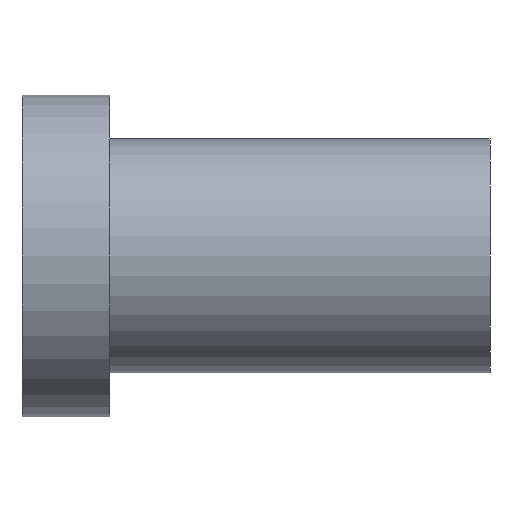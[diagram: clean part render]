
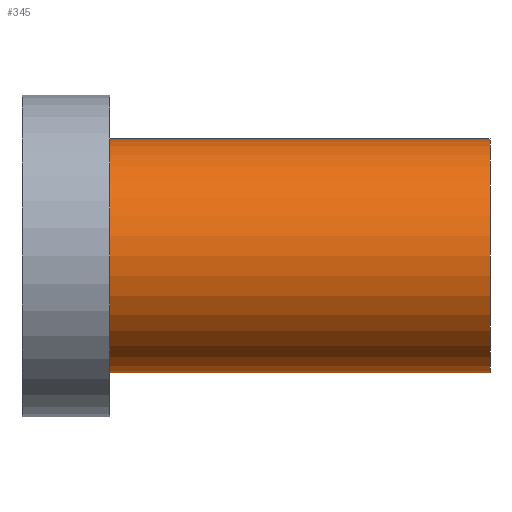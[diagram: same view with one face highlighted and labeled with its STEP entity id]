
A CAD part, left-side view. The second image highlights one B-rep face of the part: STEP entity #345.
In plain terms, the highlighted cylindrical face has radius 4 mm (diameter 8 mm), a partial arc.
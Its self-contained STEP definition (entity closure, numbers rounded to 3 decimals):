
#6 = VECTOR ( 'NONE', #335, 1000. ) ;
#27 = VERTEX_POINT ( 'NONE', #115 ) ;
#32 = EDGE_CURVE ( 'NONE', #221, #27, #102, .T. ) ;
#48 = DIRECTION ( 'NONE',  ( 0., -1., 0. ) ) ;
#50 = ORIENTED_EDGE ( 'NONE', *, *, #96, .F. ) ;
#55 = LINE ( 'NONE', #254, #6 ) ;
#61 = CARTESIAN_POINT ( 'NONE',  ( 0., 0., 4. ) ) ;
#72 = CARTESIAN_POINT ( 'NONE',  ( 0., 16., 0. ) ) ;
#92 = DIRECTION ( 'NONE',  ( 0., 0., -1. ) ) ;
#96 = EDGE_CURVE ( 'NONE', #27, #250, #158, .T. ) ;
#102 = CIRCLE ( 'NONE', #285, 4. ) ;
#115 = CARTESIAN_POINT ( 'NONE',  ( 0., 13., 4. ) ) ;
#120 = DIRECTION ( 'NONE',  ( 0., -1., 0. ) ) ;
#140 = AXIS2_PLACEMENT_3D ( 'NONE', #72, #120, #92 ) ;
#151 = DIRECTION ( 'NONE',  ( 0., 1., 0. ) ) ;
#158 = LINE ( 'NONE', #357, #281 ) ;
#164 = EDGE_CURVE ( 'NONE', #323, #250, #290, .T. ) ;
#199 = DIRECTION ( 'NONE',  ( 0., 1., 0. ) ) ;
#219 = CARTESIAN_POINT ( 'NONE',  ( 0., 13., -4. ) ) ;
#221 = VERTEX_POINT ( 'NONE', #219 ) ;
#226 = FACE_OUTER_BOUND ( 'NONE', #284, .T. ) ;
#227 = CARTESIAN_POINT ( 'NONE',  ( 0., 0., -4. ) ) ;
#238 = AXIS2_PLACEMENT_3D ( 'NONE', #270, #151, #327 ) ;
#249 = ORIENTED_EDGE ( 'NONE', *, *, #164, .T. ) ;
#250 = VERTEX_POINT ( 'NONE', #61 ) ;
#252 = EDGE_CURVE ( 'NONE', #221, #323, #55, .T. ) ;
#254 = CARTESIAN_POINT ( 'NONE',  ( 0., 16., -4. ) ) ;
#270 = CARTESIAN_POINT ( 'NONE',  ( 0., 0., 0. ) ) ;
#271 = ORIENTED_EDGE ( 'NONE', *, *, #252, .T. ) ;
#281 = VECTOR ( 'NONE', #48, 1000. ) ;
#284 = EDGE_LOOP ( 'NONE', ( #50, #331, #271, #249 ) ) ;
#285 = AXIS2_PLACEMENT_3D ( 'NONE', #340, #199, #338 ) ;
#290 = CIRCLE ( 'NONE', #238, 4. ) ;
#318 = CYLINDRICAL_SURFACE ( 'NONE', #140, 4. ) ;
#323 = VERTEX_POINT ( 'NONE', #227 ) ;
#327 = DIRECTION ( 'NONE',  ( 0., 0., 1. ) ) ;
#331 = ORIENTED_EDGE ( 'NONE', *, *, #32, .F. ) ;
#335 = DIRECTION ( 'NONE',  ( 0., -1., 0. ) ) ;
#338 = DIRECTION ( 'NONE',  ( 0., 0., 1. ) ) ;
#340 = CARTESIAN_POINT ( 'NONE',  ( 0., 13., 0. ) ) ;
#345 = ADVANCED_FACE ( 'NONE', ( #226 ), #318, .T. ) ;
#357 = CARTESIAN_POINT ( 'NONE',  ( 0., 16., 4. ) ) ;
